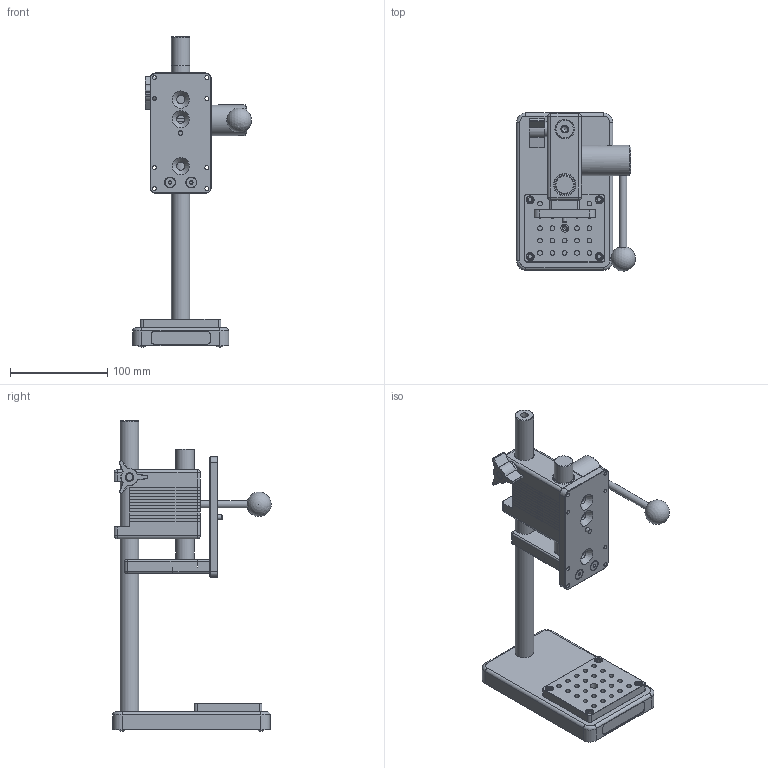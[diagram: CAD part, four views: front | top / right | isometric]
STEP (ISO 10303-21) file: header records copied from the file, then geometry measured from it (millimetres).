
FILE_DESCRIPTION((''),'2;1');
FILE_NAME('F:\CAD files\Itr\3D MARKETING MODELS\MANUAL TEST STANDS\ES05\ES05.stp','2017-06-21T14:51:17',('mlampen'),(''),'Autodesk Inventor 2010','Autodesk Inventor 2010','');
FILE_SCHEMA(('AUTOMOTIVE_DESIGN { 1 0 10303 214 1 1 1 1 }'));
Length unit declared in the file: inch
Products named in the file (1): Part2
Bounding box: 122.36 x 163.15 x 319.53 mm (x, y, z)
Volume: 760316.2 mm3; surface area: 128128.3 mm2
Topology: 2 solids, 2 shells, 730 faces, 1642 edges, 980 vertices
Faces by surface type: plane 286, cylinder 212, cone 156, torus 39, sphere 25, bspline 12
Full cylindrical faces by diameter (mm): 4.039 x9, 4.166 x1, 4.171 x1, 4.763 x1, 4.826 x24, 6.223 x1, 7.496 x1, 7.925 x5, 7.938 x5, 8.382 x7, 8.636 x4, 8.731 x1, 10.16 x4, 15.875 x2, 19.063 x4, 22.225 x2, 31.496 x1
Entity records: 20412 total; most frequent: CARTESIAN_POINT 4836, DIRECTION 3426, ORIENTED_EDGE 2948, EDGE_CURVE 1474, AXIS2_PLACEMENT_3D 1369, VERTEX_POINT 942, EDGE_LOOP 940, FACE_OUTER_BOUND 726
